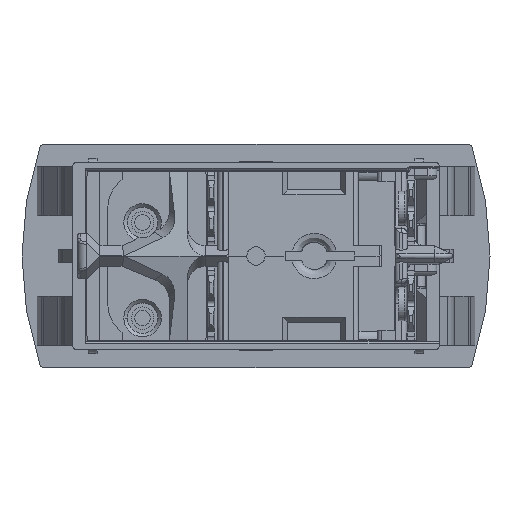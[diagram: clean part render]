
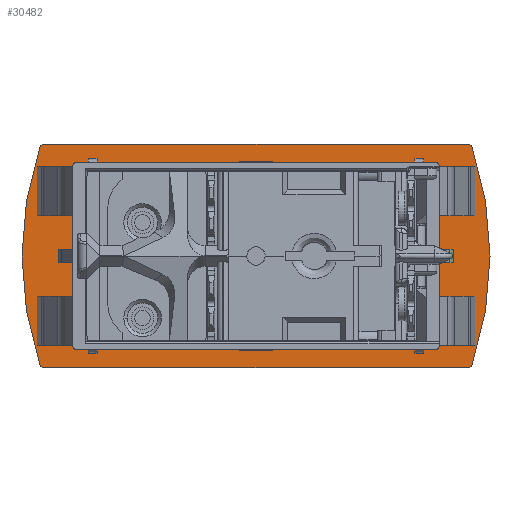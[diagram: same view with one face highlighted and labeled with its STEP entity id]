
A CAD part, front view. The second image highlights one B-rep face of the part: STEP entity #30482.
In plain terms, the highlighted planar face has unit normal (0, -1, 0).
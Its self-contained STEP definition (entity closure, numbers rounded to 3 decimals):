
#125=DIRECTION('',(0.,0.,-1.));
#126=VECTOR('',#125,0.425);
#127=CARTESIAN_POINT('',(-17.8,33.,10.925));
#128=LINE('',#127,#126);
#129=DIRECTION('',(-1.,0.,0.));
#130=VECTOR('',#129,1.);
#131=CARTESIAN_POINT('',(-17.8,33.,10.925));
#132=LINE('',#131,#130);
#133=DIRECTION('',(1.,0.,0.));
#134=VECTOR('',#133,3.3);
#135=CARTESIAN_POINT('',(-22.1,33.,0.75));
#136=LINE('',#135,#134);
#137=DIRECTION('',(0.,0.,1.));
#138=VECTOR('',#137,1.5);
#139=CARTESIAN_POINT('',(-22.1,33.,-0.75));
#140=LINE('',#139,#138);
#141=DIRECTION('',(1.,0.,0.));
#142=VECTOR('',#141,3.3);
#143=CARTESIAN_POINT('',(-22.1,33.,-0.75));
#144=LINE('',#143,#142);
#145=DIRECTION('',(-1.,0.,0.));
#146=VECTOR('',#145,1.);
#147=CARTESIAN_POINT('',(-17.8,33.,-10.925));
#148=LINE('',#147,#146);
#149=DIRECTION('',(0.,0.,-1.));
#150=VECTOR('',#149,0.425);
#151=CARTESIAN_POINT('',(-17.8,33.,-10.5));
#152=LINE('',#151,#150);
#153=DIRECTION('',(0.,0.,1.));
#154=VECTOR('',#153,0.425);
#155=CARTESIAN_POINT('',(17.8,33.,-10.925));
#156=LINE('',#155,#154);
#157=DIRECTION('',(1.,0.,0.));
#158=VECTOR('',#157,1.);
#159=CARTESIAN_POINT('',(17.8,33.,-10.925));
#160=LINE('',#159,#158);
#161=DIRECTION('',(1.,0.,0.));
#162=VECTOR('',#161,3.3);
#163=CARTESIAN_POINT('',(18.8,33.,-0.75));
#164=LINE('',#163,#162);
#165=DIRECTION('',(0.,0.,1.));
#166=VECTOR('',#165,1.5);
#167=CARTESIAN_POINT('',(22.1,33.,-0.75));
#168=LINE('',#167,#166);
#169=DIRECTION('',(1.,0.,0.));
#170=VECTOR('',#169,3.3);
#171=CARTESIAN_POINT('',(18.8,33.,0.75));
#172=LINE('',#171,#170);
#173=DIRECTION('',(1.,0.,0.));
#174=VECTOR('',#173,1.);
#175=CARTESIAN_POINT('',(17.8,33.,10.925));
#176=LINE('',#175,#174);
#177=DIRECTION('',(0.,0.,1.));
#178=VECTOR('',#177,0.425);
#179=CARTESIAN_POINT('',(17.8,33.,10.5));
#180=LINE('',#179,#178);
#181=DIRECTION('',(1.,0.,0.));
#182=VECTOR('',#181,35.6);
#183=CARTESIAN_POINT('',(-17.8,33.,10.5));
#184=LINE('',#183,#182);
#185=CARTESIAN_POINT('',(23.656,33.,11.9));
#186=DIRECTION('',(0.,-1.,0.));
#187=DIRECTION('',(0.948,0.,0.318));
#188=AXIS2_PLACEMENT_3D('',#185,#186,#187);
#190=CARTESIAN_POINT('',(-11.8,33.,0.));
#191=DIRECTION('',(0.,1.,0.));
#192=DIRECTION('',(0.948,0.,0.318));
#193=AXIS2_PLACEMENT_3D('',#190,#191,#192);
#195=CARTESIAN_POINT('',(23.656,33.,-11.9));
#196=DIRECTION('',(0.,-1.,0.));
#197=DIRECTION('',(0.,0.,-1.));
#198=AXIS2_PLACEMENT_3D('',#195,#196,#197);
#200=DIRECTION('',(-1.,0.,0.));
#201=VECTOR('',#200,47.313);
#202=CARTESIAN_POINT('',(23.656,33.,-12.5));
#203=LINE('',#202,#201);
#204=CARTESIAN_POINT('',(-23.656,33.,-11.9));
#205=DIRECTION('',(0.,-1.,0.));
#206=DIRECTION('',(-0.948,0.,-0.318));
#207=AXIS2_PLACEMENT_3D('',#204,#205,#206);
#209=CARTESIAN_POINT('',(11.8,33.,0.));
#210=DIRECTION('',(0.,1.,0.));
#211=DIRECTION('',(-0.948,0.,-0.318));
#212=AXIS2_PLACEMENT_3D('',#209,#210,#211);
#214=CARTESIAN_POINT('',(-23.656,33.,11.9));
#215=DIRECTION('',(0.,-1.,0.));
#216=DIRECTION('',(0.,0.,1.));
#217=AXIS2_PLACEMENT_3D('',#214,#215,#216);
#219=DIRECTION('',(1.,0.,0.));
#220=VECTOR('',#219,47.313);
#221=CARTESIAN_POINT('',(-23.656,33.,12.5));
#222=LINE('',#221,#220);
#4131=DIRECTION('',(1.,0.,0.));
#4132=VECTOR('',#4131,35.6);
#4133=CARTESIAN_POINT('',(-17.8,33.,-10.5));
#4134=LINE('',#4133,#4132);
#8150=DIRECTION('',(0.,0.,1.));
#8151=VECTOR('',#8150,10.175);
#8152=CARTESIAN_POINT('',(-18.8,33.,-10.925));
#8153=LINE('',#8152,#8151);
#8190=DIRECTION('',(0.,0.,1.));
#8191=VECTOR('',#8190,10.175);
#8192=CARTESIAN_POINT('',(-18.8,33.,0.75));
#8193=LINE('',#8192,#8191);
#8532=DIRECTION('',(0.,0.,-1.));
#8533=VECTOR('',#8532,10.175);
#8534=CARTESIAN_POINT('',(18.8,33.,10.925));
#8535=LINE('',#8534,#8533);
#8572=DIRECTION('',(0.,0.,-1.));
#8573=VECTOR('',#8572,10.175);
#8574=CARTESIAN_POINT('',(18.8,33.,-0.75));
#8575=LINE('',#8574,#8573);
#24762=CARTESIAN_POINT('',(-18.8,33.,-0.75));
#24764=VERTEX_POINT('',#24762);
#24766=CARTESIAN_POINT('',(-18.8,33.,0.75));
#24768=VERTEX_POINT('',#24766);
#24771=CARTESIAN_POINT('',(18.8,33.,-0.75));
#24773=VERTEX_POINT('',#24771);
#24775=CARTESIAN_POINT('',(18.8,33.,0.75));
#24777=VERTEX_POINT('',#24775);
#24786=CARTESIAN_POINT('',(-22.1,33.,-0.75));
#24787=VERTEX_POINT('',#24786);
#24788=CARTESIAN_POINT('',(22.1,33.,-0.75));
#24789=VERTEX_POINT('',#24788);
#24790=CARTESIAN_POINT('',(-22.1,33.,0.75));
#24791=VERTEX_POINT('',#24790);
#24792=CARTESIAN_POINT('',(22.1,33.,0.75));
#24793=VERTEX_POINT('',#24792);
#24882=CARTESIAN_POINT('',(17.8,33.,-10.925));
#24883=CARTESIAN_POINT('',(17.8,33.,-10.5));
#24884=VERTEX_POINT('',#24882);
#24885=VERTEX_POINT('',#24883);
#24886=CARTESIAN_POINT('',(18.8,33.,-10.925));
#24887=VERTEX_POINT('',#24886);
#24888=CARTESIAN_POINT('',(17.8,33.,10.925));
#24889=CARTESIAN_POINT('',(18.8,33.,10.925));
#24890=VERTEX_POINT('',#24888);
#24891=VERTEX_POINT('',#24889);
#24892=CARTESIAN_POINT('',(-17.8,33.,-10.5));
#24893=CARTESIAN_POINT('',(-17.8,33.,-10.925));
#24894=VERTEX_POINT('',#24892);
#24895=VERTEX_POINT('',#24893);
#24896=CARTESIAN_POINT('',(-18.8,33.,-10.925));
#24897=VERTEX_POINT('',#24896);
#24898=CARTESIAN_POINT('',(-17.8,33.,10.925));
#24899=CARTESIAN_POINT('',(-18.8,33.,10.925));
#24900=VERTEX_POINT('',#24898);
#24901=VERTEX_POINT('',#24899);
#25214=CARTESIAN_POINT('',(-17.8,33.,10.5));
#25215=CARTESIAN_POINT('',(17.8,33.,10.5));
#25216=VERTEX_POINT('',#25214);
#25217=VERTEX_POINT('',#25215);
#27900=CARTESIAN_POINT('',(24.225,33.,12.091));
#27901=CARTESIAN_POINT('',(23.656,33.,12.5));
#27902=VERTEX_POINT('',#27900);
#27903=VERTEX_POINT('',#27901);
#27924=CARTESIAN_POINT('',(23.656,33.,-12.5));
#27925=CARTESIAN_POINT('',(24.225,33.,-12.091));
#27926=VERTEX_POINT('',#27924);
#27927=VERTEX_POINT('',#27925);
#27928=CARTESIAN_POINT('',(-24.225,33.,-12.091));
#27929=CARTESIAN_POINT('',(-23.656,33.,-12.5));
#27930=VERTEX_POINT('',#27928);
#27931=VERTEX_POINT('',#27929);
#27952=CARTESIAN_POINT('',(-23.656,33.,12.5));
#27953=CARTESIAN_POINT('',(-24.225,33.,12.091));
#27954=VERTEX_POINT('',#27952);
#27955=VERTEX_POINT('',#27953);
#30419=CARTESIAN_POINT('',(0.,33.,0.));
#30420=DIRECTION('',(0.,1.,0.));
#30421=DIRECTION('',(-1.,0.,0.));
#30422=AXIS2_PLACEMENT_3D('',#30419,#30420,#30421);
#30423=PLANE('',#30422);
#30424=ORIENTED_EDGE('',*,*,#30409,.F.);
#30426=ORIENTED_EDGE('',*,*,#30425,.T.);
#30428=ORIENTED_EDGE('',*,*,#30427,.F.);
#30430=ORIENTED_EDGE('',*,*,#30429,.T.);
#30432=ORIENTED_EDGE('',*,*,#30431,.F.);
#30434=ORIENTED_EDGE('',*,*,#30433,.T.);
#30436=ORIENTED_EDGE('',*,*,#30435,.F.);
#30437=ORIENTED_EDGE('',*,*,#30393,.T.);
#30438=EDGE_LOOP('',(#30424,#30426,#30428,#30430,#30432,#30434,#30436,#30437));
#30439=FACE_OUTER_BOUND('',#30438,.F.);
#30441=ORIENTED_EDGE('',*,*,#30440,.F.);
#30443=ORIENTED_EDGE('',*,*,#30442,.T.);
#30445=ORIENTED_EDGE('',*,*,#30444,.F.);
#30447=ORIENTED_EDGE('',*,*,#30446,.F.);
#30449=ORIENTED_EDGE('',*,*,#30448,.F.);
#30451=ORIENTED_EDGE('',*,*,#30450,.T.);
#30453=ORIENTED_EDGE('',*,*,#30452,.F.);
#30455=ORIENTED_EDGE('',*,*,#30454,.F.);
#30457=ORIENTED_EDGE('',*,*,#30456,.F.);
#30459=ORIENTED_EDGE('',*,*,#30458,.T.);
#30461=ORIENTED_EDGE('',*,*,#30460,.F.);
#30463=ORIENTED_EDGE('',*,*,#30462,.T.);
#30465=ORIENTED_EDGE('',*,*,#30464,.F.);
#30467=ORIENTED_EDGE('',*,*,#30466,.T.);
#30469=ORIENTED_EDGE('',*,*,#30468,.T.);
#30471=ORIENTED_EDGE('',*,*,#30470,.F.);
#30473=ORIENTED_EDGE('',*,*,#30472,.F.);
#30475=ORIENTED_EDGE('',*,*,#30474,.F.);
#30477=ORIENTED_EDGE('',*,*,#30476,.F.);
#30479=ORIENTED_EDGE('',*,*,#30478,.F.);
#30480=EDGE_LOOP('',(#30441,#30443,#30445,#30447,#30449,#30451,#30453,#30455,
#30457,#30459,#30461,#30463,#30465,#30467,#30469,#30471,#30473,#30475,#30477,
#30479));
#30481=FACE_BOUND('',#30480,.F.);
#189=CIRCLE('',#188,0.6);
#194=CIRCLE('',#193,38.);
#199=CIRCLE('',#198,0.6);
#208=CIRCLE('',#207,0.6);
#213=CIRCLE('',#212,38.);
#218=CIRCLE('',#217,0.6);
#30393=EDGE_CURVE('',#27954,#27903,#222,.T.);
#30409=EDGE_CURVE('',#27902,#27903,#189,.T.);
#30425=EDGE_CURVE('',#27902,#27927,#194,.T.);
#30427=EDGE_CURVE('',#27926,#27927,#199,.T.);
#30429=EDGE_CURVE('',#27926,#27931,#203,.T.);
#30431=EDGE_CURVE('',#27930,#27931,#208,.T.);
#30433=EDGE_CURVE('',#27930,#27955,#213,.T.);
#30435=EDGE_CURVE('',#27954,#27955,#218,.T.);
#30440=EDGE_CURVE('',#24900,#25216,#128,.T.);
#30442=EDGE_CURVE('',#24900,#24901,#132,.T.);
#30444=EDGE_CURVE('',#24768,#24901,#8193,.T.);
#30446=EDGE_CURVE('',#24791,#24768,#136,.T.);
#30448=EDGE_CURVE('',#24787,#24791,#140,.T.);
#30450=EDGE_CURVE('',#24787,#24764,#144,.T.);
#30452=EDGE_CURVE('',#24897,#24764,#8153,.T.);
#30454=EDGE_CURVE('',#24895,#24897,#148,.T.);
#30456=EDGE_CURVE('',#24894,#24895,#152,.T.);
#30458=EDGE_CURVE('',#24894,#24885,#4134,.T.);
#30460=EDGE_CURVE('',#24884,#24885,#156,.T.);
#30462=EDGE_CURVE('',#24884,#24887,#160,.T.);
#30464=EDGE_CURVE('',#24773,#24887,#8575,.T.);
#30466=EDGE_CURVE('',#24773,#24789,#164,.T.);
#30468=EDGE_CURVE('',#24789,#24793,#168,.T.);
#30470=EDGE_CURVE('',#24777,#24793,#172,.T.);
#30472=EDGE_CURVE('',#24891,#24777,#8535,.T.);
#30474=EDGE_CURVE('',#24890,#24891,#176,.T.);
#30476=EDGE_CURVE('',#25217,#24890,#180,.T.);
#30478=EDGE_CURVE('',#25216,#25217,#184,.T.);
#30482=ADVANCED_FACE('',(#30439,#30481),#30423,.F.);
